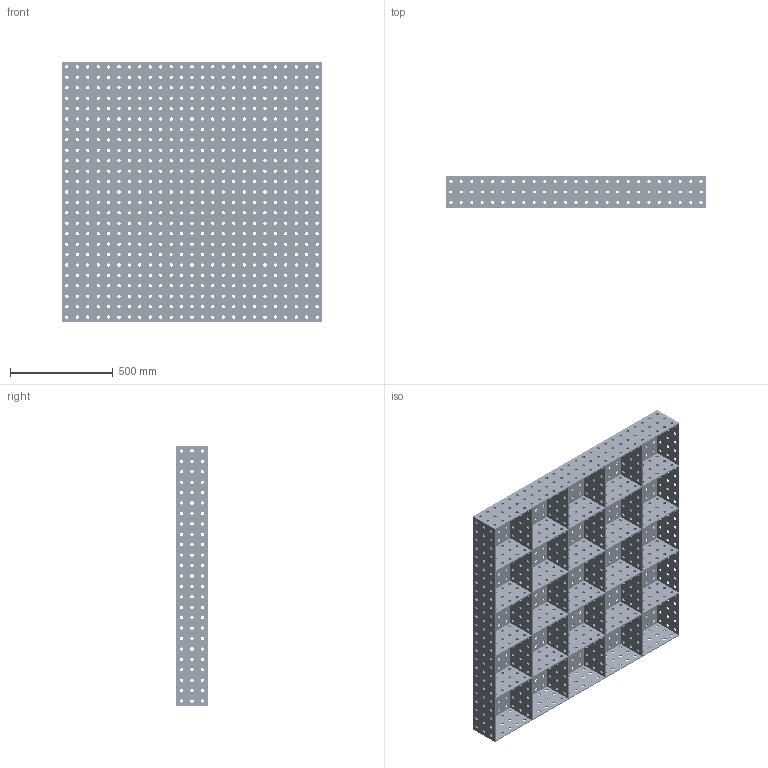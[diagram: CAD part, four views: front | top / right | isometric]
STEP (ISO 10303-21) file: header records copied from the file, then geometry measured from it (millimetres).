
FILE_DESCRIPTION (( 'STEP AP203' ), '1' );
FILE_NAME ('50x50.STEP', '2025-06-10T18:10:15', ( '' ), ( '' ), 'SwSTEP 2.0', 'SolidWorks 2023', '' );
FILE_SCHEMA (( 'CONFIG_CONTROL_DESIGN' ));
Products named in the file (1): 50x50
Bounding box: 1270 x 152.4 x 1270 mm (x, y, z)
Volume: 22739214.7 mm3; surface area: 7479132.8 mm2
Topology: 1 solids, 1 shells, 3181 faces, 9462 edges, 6308 vertices
Faces by surface type: cylinder 3050, plane 131
Entity records: 116635 total; most frequent: DIRECTION 21926, CARTESIAN_POINT 18952, ORIENTED_EDGE 18924, EDGE_CURVE 9462, AXIS2_PLACEMENT_3D 9282, VERTEX_POINT 6308, EDGE_LOOP 6256, CIRCLE 6100
